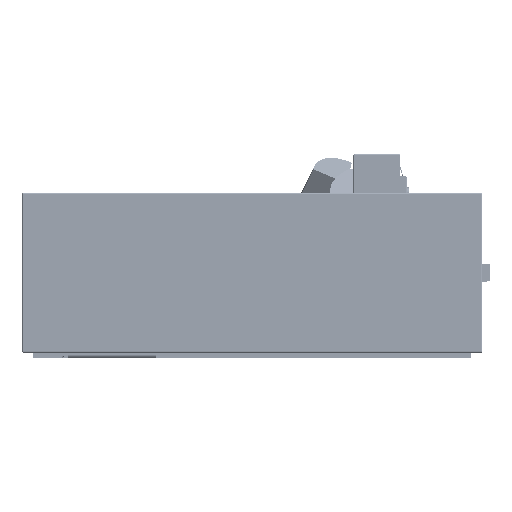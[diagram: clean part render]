
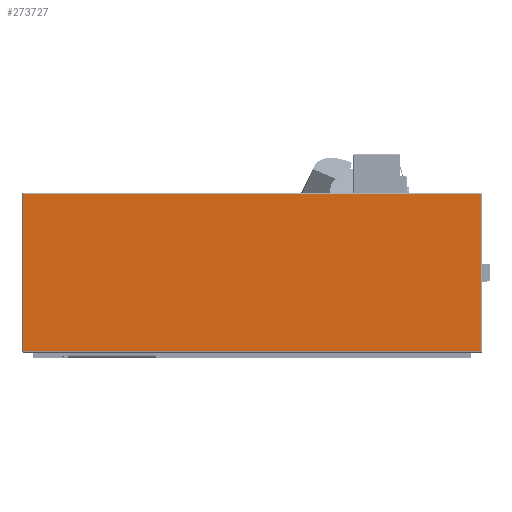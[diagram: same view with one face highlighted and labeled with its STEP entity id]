
A CAD part, left-side view. The second image highlights one B-rep face of the part: STEP entity #273727.
In plain terms, the highlighted planar face has unit normal (-1, 0, 0) as drawn and (1, 0, 0) by its records, which use the part's own axes.
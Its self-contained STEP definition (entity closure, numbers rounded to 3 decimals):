
#1406 = CARTESIAN_POINT ( 'NONE',  ( 1386.962, 549.685, 1089.831 ) ) ;
#13262 = LINE ( 'NONE', #230070, #266053 ) ;
#13271 = CARTESIAN_POINT ( 'NONE',  ( 1386.962, 549.685, 982.831 ) ) ;
#20414 = FACE_OUTER_BOUND ( 'NONE', #176869, .T. ) ;
#25118 = VERTEX_POINT ( 'NONE', #13271 ) ;
#55150 = DIRECTION ( 'NONE',  ( 0., -1., 0. ) ) ;
#55796 = ORIENTED_EDGE ( 'NONE', *, *, #166103, .T. ) ;
#70799 = CARTESIAN_POINT ( 'NONE',  ( 1386.962, 549.685, 1196.831 ) ) ;
#96405 = LINE ( 'NONE', #1406, #156541 ) ;
#100974 = LINE ( 'NONE', #173725, #178263 ) ;
#104614 = VECTOR ( 'NONE', #55150, 1000. ) ;
#104717 = CARTESIAN_POINT ( 'NONE',  ( 1386.962, 1172.685, 1196.831 ) ) ;
#108860 = AXIS2_PLACEMENT_3D ( 'NONE', #186639, #216604, #169116 ) ;
#113414 = CARTESIAN_POINT ( 'NONE',  ( 1386.962, 1172.685, 982.831 ) ) ;
#133520 = DIRECTION ( 'NONE',  ( 0., 0., 1. ) ) ;
#140688 = PLANE ( 'NONE',  #108860 ) ;
#152774 = EDGE_CURVE ( 'NONE', #167590, #251330, #13262, .T. ) ;
#156541 = VECTOR ( 'NONE', #286324, 1000. ) ;
#157966 = ORIENTED_EDGE ( 'NONE', *, *, #212957, .T. ) ;
#166103 = EDGE_CURVE ( 'NONE', #243189, #25118, #96405, .T. ) ;
#167590 = VERTEX_POINT ( 'NONE', #113414 ) ;
#169116 = DIRECTION ( 'NONE',  ( 0., 0., 1. ) ) ;
#173725 = CARTESIAN_POINT ( 'NONE',  ( 1386.962, 861.185, 982.831 ) ) ;
#176869 = EDGE_LOOP ( 'NONE', ( #203444, #55796, #157966, #292248 ) ) ;
#178263 = VECTOR ( 'NONE', #246523, 1000. ) ;
#186639 = CARTESIAN_POINT ( 'NONE',  ( 1386.962, 861.185, 1089.831 ) ) ;
#203444 = ORIENTED_EDGE ( 'NONE', *, *, #305751, .T. ) ;
#212957 = EDGE_CURVE ( 'NONE', #25118, #167590, #100974, .T. ) ;
#216604 = DIRECTION ( 'NONE',  ( 1., 0., 0. ) ) ;
#226025 = CARTESIAN_POINT ( 'NONE',  ( 1386.962, 547.685, 1196.831 ) ) ;
#230070 = CARTESIAN_POINT ( 'NONE',  ( 1386.962, 1172.685, 1089.831 ) ) ;
#243189 = VERTEX_POINT ( 'NONE', #70799 ) ;
#246523 = DIRECTION ( 'NONE',  ( 0., 1., 0. ) ) ;
#251330 = VERTEX_POINT ( 'NONE', #104717 ) ;
#266053 = VECTOR ( 'NONE', #133520, 1000. ) ;
#273727 = ADVANCED_FACE ( 'NONE', ( #20414 ), #140688, .T. ) ;
#286324 = DIRECTION ( 'NONE',  ( 0., 0., -1. ) ) ;
#292248 = ORIENTED_EDGE ( 'NONE', *, *, #152774, .T. ) ;
#298791 = LINE ( 'NONE', #226025, #104614 ) ;
#305751 = EDGE_CURVE ( 'NONE', #251330, #243189, #298791, .T. ) ;
